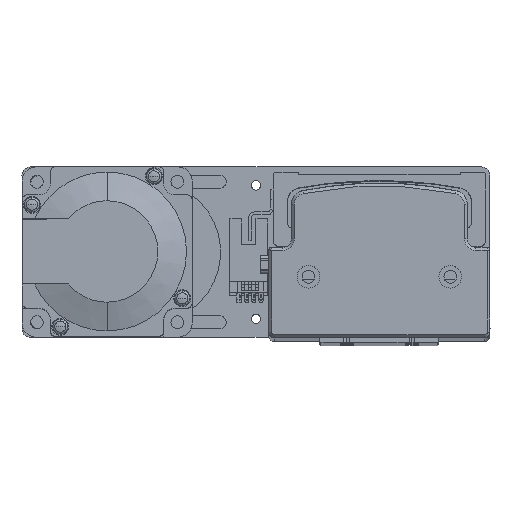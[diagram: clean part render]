
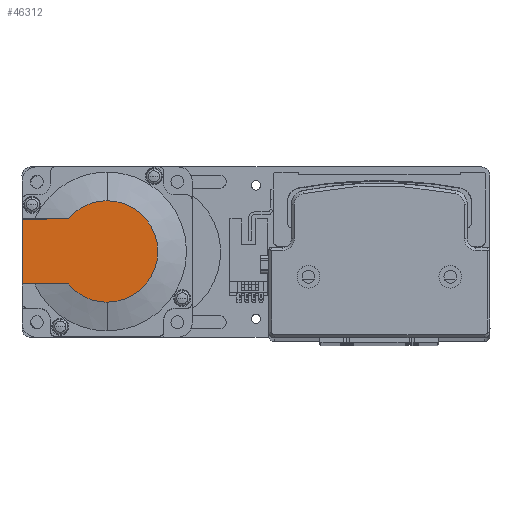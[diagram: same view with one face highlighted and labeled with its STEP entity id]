
A CAD part, top view. The second image highlights one B-rep face of the part: STEP entity #46312.
In plain terms, the highlighted planar face has unit normal (0, 0, 1) as drawn and (-1, 0, 0) by its records, which use the part's own axes.
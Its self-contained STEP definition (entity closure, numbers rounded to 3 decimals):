
#208 = ORIENTED_EDGE ( 'NONE', *, *, #41434, .T. ) ;
#860 = CARTESIAN_POINT ( 'NONE',  ( -118.5, 0., 0. ) ) ;
#1705 = DIRECTION ( 'NONE',  ( 0., -1., 0. ) ) ;
#2242 = AXIS2_PLACEMENT_3D ( 'NONE', #17645, #44693, #21579 ) ;
#2554 = LINE ( 'NONE', #22551, #21878 ) ;
#3573 = CARTESIAN_POINT ( 'NONE',  ( -118.5, 30., -11.45 ) ) ;
#4790 = DIRECTION ( 'NONE',  ( 0., 0., -1. ) ) ;
#5002 = CARTESIAN_POINT ( 'NONE',  ( -118.5, -8.941, -11.45 ) ) ;
#5633 = CARTESIAN_POINT ( 'NONE',  ( -118.5, 13.735, -11.45 ) ) ;
#6650 = ORIENTED_EDGE ( 'NONE', *, *, #35308, .T. ) ;
#6907 = CARTESIAN_POINT ( 'NONE',  ( -118.5, 0., 0. ) ) ;
#7227 = CIRCLE ( 'NONE', #27181, 17.881 ) ;
#10697 = AXIS2_PLACEMENT_3D ( 'NONE', #6907, #33920, #10724 ) ;
#10724 = DIRECTION ( 'NONE',  ( 0., 0., -1. ) ) ;
#11875 = EDGE_CURVE ( 'NONE', #24840, #44888, #7227, .T. ) ;
#12672 = CARTESIAN_POINT ( 'NONE',  ( -118.5, 0., -17.881 ) ) ;
#12688 = DIRECTION ( 'NONE',  ( 0., -1., 0. ) ) ;
#15406 = VERTEX_POINT ( 'NONE', #5633 ) ;
#15770 = VECTOR ( 'NONE', #1705, 1000. ) ;
#16630 = VERTEX_POINT ( 'NONE', #41715 ) ;
#16851 = CARTESIAN_POINT ( 'NONE',  ( -118.5, 0., 11.45 ) ) ;
#17645 = CARTESIAN_POINT ( 'NONE',  ( -118.5, -8.941, 0. ) ) ;
#18788 = EDGE_CURVE ( 'NONE', #22761, #16630, #26114, .T. ) ;
#19066 = VECTOR ( 'NONE', #12688, 1000. ) ;
#19670 = CIRCLE ( 'NONE', #10697, 17.881 ) ;
#19845 = CARTESIAN_POINT ( 'NONE',  ( -118.5, 0., 0. ) ) ;
#20801 = CARTESIAN_POINT ( 'NONE',  ( -118.5, 30., 11.45 ) ) ;
#20919 = ORIENTED_EDGE ( 'NONE', *, *, #33537, .F. ) ;
#21579 = DIRECTION ( 'NONE',  ( 0., 0., 1. ) ) ;
#21878 = VECTOR ( 'NONE', #30348, 1000. ) ;
#22551 = CARTESIAN_POINT ( 'NONE',  ( -118.5, 30., 25. ) ) ;
#22761 = VERTEX_POINT ( 'NONE', #20801 ) ;
#23689 = CARTESIAN_POINT ( 'NONE',  ( -118.5, 0., 17.881 ) ) ;
#23802 = DIRECTION ( 'NONE',  ( 0., 0., -1. ) ) ;
#24840 = VERTEX_POINT ( 'NONE', #12672 ) ;
#24921 = ORIENTED_EDGE ( 'NONE', *, *, #44910, .T. ) ;
#26114 = LINE ( 'NONE', #16851, #15770 ) ;
#26563 = ORIENTED_EDGE ( 'NONE', *, *, #11875, .T. ) ;
#27133 = CIRCLE ( 'NONE', #44531, 17.881 ) ;
#27181 = AXIS2_PLACEMENT_3D ( 'NONE', #19845, #46877, #23802 ) ;
#27920 = DIRECTION ( 'NONE',  ( -1., 0., 0. ) ) ;
#28812 = VERTEX_POINT ( 'NONE', #3573 ) ;
#30348 = DIRECTION ( 'NONE',  ( 0., 0., 1. ) ) ;
#31873 = LINE ( 'NONE', #5002, #19066 ) ;
#32392 = EDGE_LOOP ( 'NONE', ( #6650, #208, #26563, #24921, #39019, #20919 ) ) ;
#32948 = PLANE ( 'NONE',  #2242 ) ;
#33537 = EDGE_CURVE ( 'NONE', #28812, #22761, #2554, .T. ) ;
#33920 = DIRECTION ( 'NONE',  ( -1., 0., 0. ) ) ;
#35308 = EDGE_CURVE ( 'NONE', #28812, #15406, #31873, .T. ) ;
#39019 = ORIENTED_EDGE ( 'NONE', *, *, #18788, .F. ) ;
#41434 = EDGE_CURVE ( 'NONE', #15406, #24840, #19670, .T. ) ;
#41715 = CARTESIAN_POINT ( 'NONE',  ( -118.5, 13.735, 11.45 ) ) ;
#44531 = AXIS2_PLACEMENT_3D ( 'NONE', #860, #27920, #4790 ) ;
#44693 = DIRECTION ( 'NONE',  ( -1., 0., 0. ) ) ;
#44888 = VERTEX_POINT ( 'NONE', #23689 ) ;
#44910 = EDGE_CURVE ( 'NONE', #44888, #16630, #27133, .T. ) ;
#46312 = ADVANCED_FACE ( 'NONE', ( #49294 ), #32948, .T. ) ;
#46877 = DIRECTION ( 'NONE',  ( -1., 0., 0. ) ) ;
#49294 = FACE_OUTER_BOUND ( 'NONE', #32392, .T. ) ;
